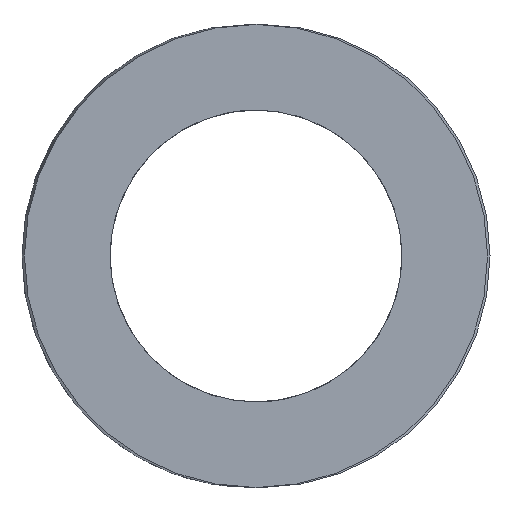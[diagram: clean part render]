
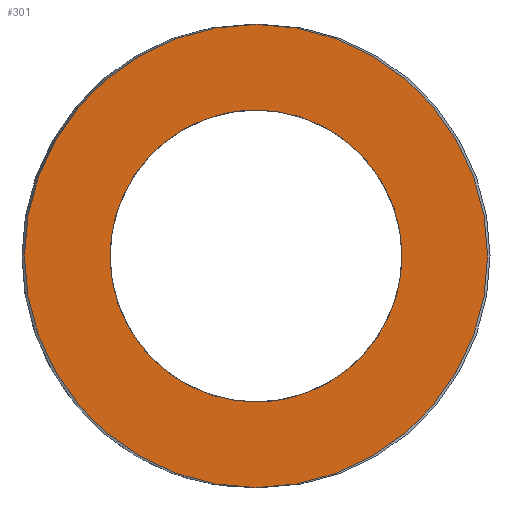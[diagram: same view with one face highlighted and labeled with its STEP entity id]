
A CAD part, left-side view. The second image highlights one B-rep face of the part: STEP entity #301.
In plain terms, the highlighted planar face has unit normal (-1, 0, 0).
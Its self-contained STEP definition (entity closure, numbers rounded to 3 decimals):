
#63=CARTESIAN_POINT('Vertex',(0.,31.1,0.)) ;
#77=CARTESIAN_POINT('Vertex',(0.,-31.1,0.)) ;
#80=CARTESIAN_POINT('Axis2P3D Location',(0.,0.,0.)) ;
#97=CARTESIAN_POINT('Axis2P3D Location',(0.,0.,0.)) ;
#232=CARTESIAN_POINT('Axis2P3D Location',(0.,15.55,0.)) ;
#242=CARTESIAN_POINT('Control Point',(0.,0.,-19.6)) ;
#243=CARTESIAN_POINT('Control Point',(0.,1.952,-19.6)) ;
#244=CARTESIAN_POINT('Control Point',(0.,3.904,-19.357)) ;
#245=CARTESIAN_POINT('Control Point',(0.,5.816,-18.871)) ;
#246=CARTESIAN_POINT('Control Point',(0.,9.478,-17.433)) ;
#247=CARTESIAN_POINT('Control Point',(0.,12.675,-15.142)) ;
#248=CARTESIAN_POINT('Control Point',(0.,14.123,-13.802)) ;
#249=CARTESIAN_POINT('Control Point',(0.,16.653,-10.789)) ;
#250=CARTESIAN_POINT('Control Point',(0.,18.368,-7.249)) ;
#251=CARTESIAN_POINT('Control Point',(0.,19.,-5.38)) ;
#252=CARTESIAN_POINT('Control Point',(0.,19.784,-1.525)) ;
#253=CARTESIAN_POINT('Control Point',(0.,19.6,2.405)) ;
#254=CARTESIAN_POINT('Control Point',(0.,19.262,4.348)) ;
#255=CARTESIAN_POINT('Control Point',(0.,18.11,8.11)) ;
#256=CARTESIAN_POINT('Control Point',(0.,16.071,11.474)) ;
#257=CARTESIAN_POINT('Control Point',(0.,14.846,13.02)) ;
#258=CARTESIAN_POINT('Control Point',(0.,12.037,15.775)) ;
#259=CARTESIAN_POINT('Control Point',(0.,8.639,17.757)) ;
#260=CARTESIAN_POINT('Control Point',(0.,6.824,18.53)) ;
#261=CARTESIAN_POINT('Control Point',(0.,4.349,19.236)) ;
#262=CARTESIAN_POINT('Control Point',(0.,1.809,19.53)) ;
#263=CARTESIAN_POINT('Control Point',(0.,1.206,19.577)) ;
#264=CARTESIAN_POINT('Control Point',(0.,0.603,19.6)) ;
#265=CARTESIAN_POINT('Control Point',(0.,0.,19.6)) ;
#266=CARTESIAN_POINT('Vertex',(0.,0.,-19.6)) ;
#268=CARTESIAN_POINT('Vertex',(0.,0.,19.6)) ;
#272=CARTESIAN_POINT('Control Point',(0.,0.,19.6)) ;
#273=CARTESIAN_POINT('Control Point',(0.,-1.952,19.6)) ;
#274=CARTESIAN_POINT('Control Point',(0.,-3.904,19.357)) ;
#275=CARTESIAN_POINT('Control Point',(0.,-5.816,18.871)) ;
#276=CARTESIAN_POINT('Control Point',(0.,-9.478,17.433)) ;
#277=CARTESIAN_POINT('Control Point',(0.,-12.675,15.142)) ;
#278=CARTESIAN_POINT('Control Point',(0.,-14.123,13.802)) ;
#279=CARTESIAN_POINT('Control Point',(0.,-16.653,10.789)) ;
#280=CARTESIAN_POINT('Control Point',(0.,-18.368,7.249)) ;
#281=CARTESIAN_POINT('Control Point',(0.,-19.,5.38)) ;
#282=CARTESIAN_POINT('Control Point',(0.,-19.784,1.525)) ;
#283=CARTESIAN_POINT('Control Point',(0.,-19.6,-2.405)) ;
#284=CARTESIAN_POINT('Control Point',(0.,-19.262,-4.348)) ;
#285=CARTESIAN_POINT('Control Point',(0.,-18.11,-8.11)) ;
#286=CARTESIAN_POINT('Control Point',(0.,-16.071,-11.474)) ;
#287=CARTESIAN_POINT('Control Point',(0.,-14.846,-13.02)) ;
#288=CARTESIAN_POINT('Control Point',(0.,-12.037,-15.775)) ;
#289=CARTESIAN_POINT('Control Point',(0.,-8.639,-17.757)) ;
#290=CARTESIAN_POINT('Control Point',(0.,-6.824,-18.53)) ;
#291=CARTESIAN_POINT('Control Point',(0.,-4.349,-19.236)) ;
#292=CARTESIAN_POINT('Control Point',(0.,-1.809,-19.53)) ;
#293=CARTESIAN_POINT('Control Point',(0.,-1.206,-19.577)) ;
#294=CARTESIAN_POINT('Control Point',(0.,-0.603,-19.6)) ;
#295=CARTESIAN_POINT('Control Point',(0.,0.,-19.6)) ;
#81=DIRECTION('Axis2P3D Direction',(1.,-0.,0.)) ;
#98=DIRECTION('Axis2P3D Direction',(1.,-0.,0.)) ;
#233=DIRECTION('Axis2P3D Direction',(-1.,0.,0.)) ;
#234=DIRECTION('Axis2P3D XDirection',(0.,1.,0.)) ;
#82=AXIS2_PLACEMENT_3D('Circle Axis2P3D',#80,#81,$) ;
#99=AXIS2_PLACEMENT_3D('Circle Axis2P3D',#97,#98,$) ;
#235=AXIS2_PLACEMENT_3D('Plane Axis2P3D',#232,#233,#234) ;
#238=ORIENTED_EDGE('',*,*,#84,.T.) ;
#239=ORIENTED_EDGE('',*,*,#101,.T.) ;
#298=ORIENTED_EDGE('',*,*,#270,.T.) ;
#299=ORIENTED_EDGE('',*,*,#296,.T.) ;
#300=FACE_BOUND('',#297,.T.) ;
#301=ADVANCED_FACE('392-B63-076',(#240,#300),#236,.T.) ;
#241=B_SPLINE_CURVE_WITH_KNOTS('',5,(#242,#243,#244,#245,#246,#247,#248,#249,#250,#251,#252,#253,#254,#255,#256,#257,#258,#259,#260,#261,#262,#263,#264,#265),.UNSPECIFIED.,.F.,.U.,(6,3,3,3,3,3,3,6),(0.,13.802,27.605,41.407,55.21,69.012,82.815,87.077),.UNSPECIFIED.) ;
#271=B_SPLINE_CURVE_WITH_KNOTS('',5,(#272,#273,#274,#275,#276,#277,#278,#279,#280,#281,#282,#283,#284,#285,#286,#287,#288,#289,#290,#291,#292,#293,#294,#295),.UNSPECIFIED.,.F.,.U.,(6,3,3,3,3,3,3,6),(0.,13.802,27.605,41.407,55.21,69.012,82.815,87.077),.UNSPECIFIED.) ;
#83=CIRCLE('generated circle',#82,31.1) ;
#100=CIRCLE('generated circle',#99,31.1) ;
#84=EDGE_CURVE('',#64,#78,#83,.F.) ;
#101=EDGE_CURVE('',#78,#64,#100,.F.) ;
#270=EDGE_CURVE('',#267,#269,#241,.T.) ;
#296=EDGE_CURVE('',#269,#267,#271,.T.) ;
#237=EDGE_LOOP('',(#238,#239)) ;
#297=EDGE_LOOP('',(#298,#299)) ;
#240=FACE_OUTER_BOUND('',#237,.T.) ;
#236=PLANE('Plane',#235) ;
#64=VERTEX_POINT('',#63) ;
#78=VERTEX_POINT('',#77) ;
#267=VERTEX_POINT('',#266) ;
#269=VERTEX_POINT('',#268) ;
